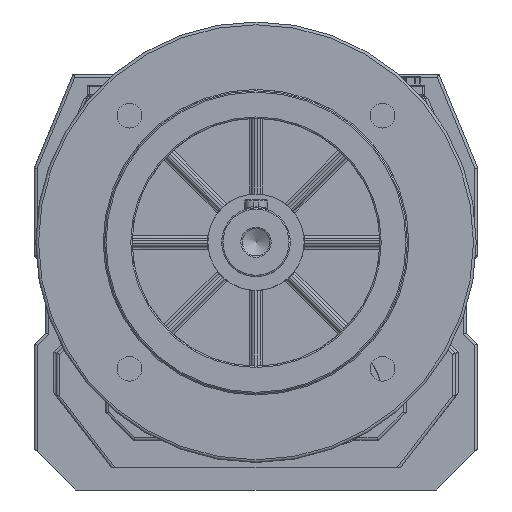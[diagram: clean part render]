
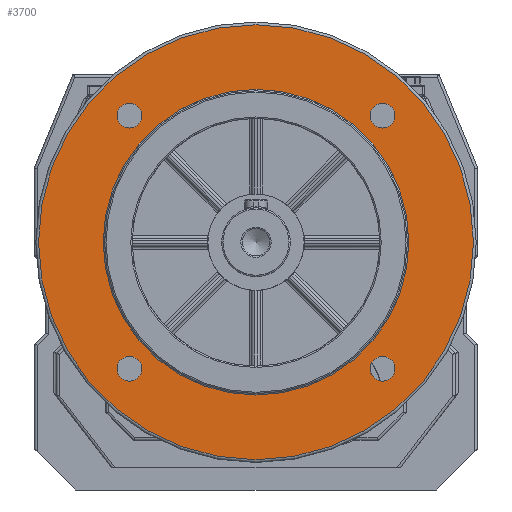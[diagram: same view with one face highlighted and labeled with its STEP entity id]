
A CAD part, front view. The second image highlights one B-rep face of the part: STEP entity #3700.
In plain terms, the highlighted planar face has unit normal (0, -1, 0).
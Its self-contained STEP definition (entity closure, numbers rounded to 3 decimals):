
#105=CARTESIAN_POINT('',(-41.462,-90.0,44.038));
#106=VERTEX_POINT('',#105);
#107=CARTESIAN_POINT('',(-45.962,-90.0,44.038));
#108=DIRECTION('',(0.0,1.0,0.0));
#109=DIRECTION('',(1.0,0.0,0.0));
#110=AXIS2_PLACEMENT_3D('',#107,#108,#109);
#111=CIRCLE('',#110,4.5);
#112=EDGE_CURVE('',#106,#106,#111,.T.);
#154=CARTESIAN_POINT('',(-41.462,-90.0,135.962));
#155=VERTEX_POINT('',#154);
#156=CARTESIAN_POINT('',(-45.962,-90.0,135.962));
#157=DIRECTION('',(0.0,1.0,0.0));
#158=DIRECTION('',(1.0,0.0,0.0));
#159=AXIS2_PLACEMENT_3D('',#156,#157,#158);
#160=CIRCLE('',#159,4.5);
#161=EDGE_CURVE('',#155,#155,#160,.T.);
#203=CARTESIAN_POINT('',(50.462,-90.0,135.962));
#204=VERTEX_POINT('',#203);
#205=CARTESIAN_POINT('',(45.962,-90.0,135.962));
#206=DIRECTION('',(0.0,1.0,0.0));
#207=DIRECTION('',(1.0,0.0,0.0));
#208=AXIS2_PLACEMENT_3D('',#205,#206,#207);
#209=CIRCLE('',#208,4.5);
#210=EDGE_CURVE('',#204,#204,#209,.T.);
#252=CARTESIAN_POINT('',(50.462,-90.0,44.038));
#253=VERTEX_POINT('',#252);
#254=CARTESIAN_POINT('',(45.962,-90.0,44.038));
#255=DIRECTION('',(0.0,1.0,0.0));
#256=DIRECTION('',(1.0,0.0,0.0));
#257=AXIS2_PLACEMENT_3D('',#254,#255,#256);
#258=CIRCLE('',#257,4.5);
#259=EDGE_CURVE('',#253,#253,#258,.T.);
#3654=CARTESIAN_POINT('',(0.0,-90.0,169.0));
#3655=VERTEX_POINT('',#3654);
#3656=CARTESIAN_POINT('',(0.0,-90.0,90.0));
#3657=DIRECTION('',(0.0,1.0,0.0));
#3658=DIRECTION('',(0.0,0.0,-1.0));
#3659=AXIS2_PLACEMENT_3D('',#3656,#3657,#3658);
#3660=CIRCLE('',#3659,79.0);
#3661=EDGE_CURVE('',#3655,#3655,#3660,.T.);
#3669=CARTESIAN_POINT('',(0.0,-90.0,157.5));
#3670=DIRECTION('',(0.0,-1.0,0.0));
#3671=DIRECTION('',(0.0,0.0,-1.0));
#3672=AXIS2_PLACEMENT_3D('',#3669,#3670,#3671);
#3673=PLANE('',#3672);
#3674=ORIENTED_EDGE('',*,*,#3661,.F.);
#3675=EDGE_LOOP('',(#3674));
#3676=FACE_OUTER_BOUND('',#3675,.T.);
#3677=ORIENTED_EDGE('',*,*,#112,.T.);
#3678=EDGE_LOOP('',(#3677));
#3679=FACE_BOUND('',#3678,.T.);
#3680=ORIENTED_EDGE('',*,*,#161,.T.);
#3681=EDGE_LOOP('',(#3680));
#3682=FACE_BOUND('',#3681,.T.);
#3683=ORIENTED_EDGE('',*,*,#210,.T.);
#3684=EDGE_LOOP('',(#3683));
#3685=FACE_BOUND('',#3684,.T.);
#3686=ORIENTED_EDGE('',*,*,#259,.T.);
#3687=EDGE_LOOP('',(#3686));
#3688=FACE_BOUND('',#3687,.T.);
#3689=CARTESIAN_POINT('',(0.,-90.0,145.5));
#3690=VERTEX_POINT('',#3689);
#3691=CARTESIAN_POINT('',(0.0,-90.0,90.0));
#3692=DIRECTION('',(0.0,-1.0,0.0));
#3693=DIRECTION('',(0.0,0.0,-1.0));
#3694=AXIS2_PLACEMENT_3D('',#3691,#3692,#3693);
#3695=CIRCLE('',#3694,55.5);
#3696=EDGE_CURVE('',#3690,#3690,#3695,.T.);
#3697=ORIENTED_EDGE('',*,*,#3696,.F.);
#3698=EDGE_LOOP('',(#3697));
#3699=FACE_BOUND('',#3698,.T.);
#3700=ADVANCED_FACE('',(#3676,#3679,#3682,#3685,#3688,#3699),#3673,.T.);
